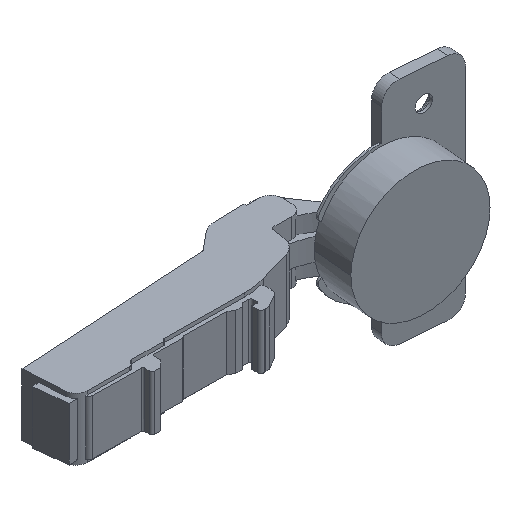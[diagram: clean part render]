
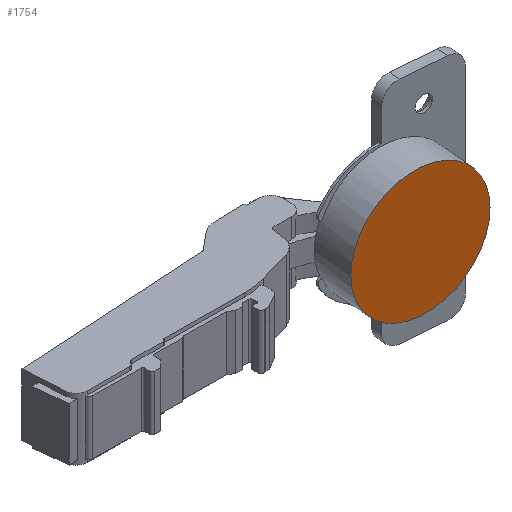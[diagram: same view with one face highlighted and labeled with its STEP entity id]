
A CAD part, isometric view. The second image highlights one B-rep face of the part: STEP entity #1754.
In plain terms, the highlighted planar face has unit normal (-0.084, -0.996, 0).
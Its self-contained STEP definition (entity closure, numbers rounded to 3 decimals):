
#464 = CARTESIAN_POINT ( 'NONE',  ( 43.464, 4.917, 2.278 ) ) ;
#478 = PLANE ( 'NONE',  #5919 ) ;
#494 = CARTESIAN_POINT ( 'NONE',  ( 58.421, 3.649, 17.288 ) ) ;
#521 = CARTESIAN_POINT ( 'NONE',  ( 76.274, 2.136, 7.711 ) ) ;
#555 = CARTESIAN_POINT ( 'NONE',  ( 65.186, 3.076, -16.843 ) ) ;
#575 = CARTESIAN_POINT ( 'NONE',  ( 45.644, 4.732, -8.72 ) ) ;
#1025 = VERTEX_POINT ( 'NONE', #5732 ) ;
#1052 = CARTESIAN_POINT ( 'NONE',  ( 44.238, 4.851, 5.607 ) ) ;
#1079 = CARTESIAN_POINT ( 'NONE',  ( 61.825, 3.361, 17.4 ) ) ;
#1105 = CARTESIAN_POINT ( 'NONE',  ( 77.474, 2.035, 4.512 ) ) ;
#1117 = CARTESIAN_POINT ( 'NONE',  ( 77.474, 2.035, -4.512 ) ) ;
#1144 = CARTESIAN_POINT ( 'NONE',  ( 61.825, 3.361, -17.4 ) ) ;
#1164 = CARTESIAN_POINT ( 'NONE',  ( 44.238, 4.851, -5.607 ) ) ;
#1403 = VERTEX_POINT ( 'NONE', #5952 ) ;
#1437 = CARTESIAN_POINT ( 'NONE',  ( 72.946, 2.418, -5.564 ) ) ;
#1517 = DIRECTION ( 'NONE',  ( 0.084, 0.996, 0. ) ) ;
#1592 = DIRECTION ( 'NONE',  ( 0., 0., -1. ) ) ;
#1651 = CARTESIAN_POINT ( 'NONE',  ( 45.644, 4.732, 8.72 ) ) ;
#1674 = CARTESIAN_POINT ( 'NONE',  ( 65.186, 3.076, 16.843 ) ) ;
#1702 = CARTESIAN_POINT ( 'NONE',  ( 78.028, 1.988, 1.139 ) ) ;
#1714 = CARTESIAN_POINT ( 'NONE',  ( 76.274, 2.136, -7.711 ) ) ;
#1738 = CARTESIAN_POINT ( 'NONE',  ( 58.421, 3.649, -17.288 ) ) ;
#1754 = ADVANCED_FACE ( 'NONE', ( #2948 ), #478, .F. ) ;
#1761 = CARTESIAN_POINT ( 'NONE',  ( 43.464, 4.917, -2.278 ) ) ;
#2241 = CARTESIAN_POINT ( 'NONE',  ( 47.628, 4.564, 11.498 ) ) ;
#2272 = CARTESIAN_POINT ( 'NONE',  ( 68.374, 2.806, 15.64 ) ) ;
#2308 = CARTESIAN_POINT ( 'NONE',  ( 74.476, 2.289, -10.614 ) ) ;
#2330 = CARTESIAN_POINT ( 'NONE',  ( 55.104, 3.93, -16.511 ) ) ;
#2343 = B_SPLINE_CURVE_WITH_KNOTS ( 'NONE', 3,
 ( #3368, #7402, #464, #4496, #1052, #5063, #1651, #5678, #2241, #6262, #2821, #6849, #3391, #7427, #3961, #494, #4519, #1079, #5092, #1674, #5701, #2272, #6291, #2846, #6877, #3417, #7448, #3985, #521, #4547, #1105, #5118, #1702, #5726 ),
 .UNSPECIFIED., .F., .F.,
 ( 4, 2, 2, 2, 2, 2, 2, 2, 2, 2, 2, 2, 2, 2, 2, 2, 4 ),
 ( 0., 0.063, 0.125, 0.188, 0.25, 0.313, 0.375, 0.438, 0.5, 0.563, 0.625, 0.688, 0.75, 0.813, 0.875, 0.938, 1. ),
 .UNSPECIFIED. ) ;
#2351 = CARTESIAN_POINT ( 'NONE',  ( 43.352, 4.926, 0. ) ) ;
#2821 = CARTESIAN_POINT ( 'NONE',  ( 50.114, 4.353, 13.835 ) ) ;
#2846 = CARTESIAN_POINT ( 'NONE',  ( 71.266, 2.561, 13.835 ) ) ;
#2887 = CARTESIAN_POINT ( 'NONE',  ( 72.148, 2.486, -13.109 ) ) ;
#2913 = CARTESIAN_POINT ( 'NONE',  ( 52.001, 4.193, -15.1 ) ) ;
#2948 = FACE_OUTER_BOUND ( 'NONE', #6141, .T. ) ;
#3104 = B_SPLINE_CURVE_WITH_KNOTS ( 'NONE', 3,
 ( #3995, #5713, #4562, #1117, #5134, #1714, #5738, #2308, #6327, #2887, #6913, #3456, #7485, #4015, #555, #4586, #1144, #5153, #1738, #5768, #2330, #6353, #2913, #6938, #3478, #7507, #4041, #575, #4610, #1164, #5180, #1761, #5792, #2351 ),
 .UNSPECIFIED., .F., .F.,
 ( 4, 2, 2, 2, 2, 2, 2, 2, 2, 2, 2, 2, 2, 2, 2, 2, 4 ),
 ( 0., 0.063, 0.125, 0.188, 0.25, 0.313, 0.375, 0.438, 0.5, 0.563, 0.625, 0.688, 0.75, 0.813, 0.875, 0.938, 1. ),
 .UNSPECIFIED. ) ;
#3368 = CARTESIAN_POINT ( 'NONE',  ( 43.352, 4.926, 0. ) ) ;
#3391 = CARTESIAN_POINT ( 'NONE',  ( 53.007, 4.108, 15.64 ) ) ;
#3417 = CARTESIAN_POINT ( 'NONE',  ( 73.752, 2.35, 11.498 ) ) ;
#3456 = CARTESIAN_POINT ( 'NONE',  ( 69.379, 2.721, -15.1 ) ) ;
#3478 = CARTESIAN_POINT ( 'NONE',  ( 49.233, 4.428, -13.109 ) ) ;
#3961 = CARTESIAN_POINT ( 'NONE',  ( 56.195, 3.838, 16.843 ) ) ;
#3985 = CARTESIAN_POINT ( 'NONE',  ( 75.737, 2.182, 8.72 ) ) ;
#3995 = CARTESIAN_POINT ( 'NONE',  ( 78.028, 1.988, 0. ) ) ;
#4015 = CARTESIAN_POINT ( 'NONE',  ( 66.277, 2.984, -16.511 ) ) ;
#4041 = CARTESIAN_POINT ( 'NONE',  ( 46.905, 4.625, -10.614 ) ) ;
#4141 = EDGE_CURVE ( 'NONE', #1025, #1403, #2343, .T. ) ;
#4496 = CARTESIAN_POINT ( 'NONE',  ( 43.907, 4.879, 4.512 ) ) ;
#4519 = CARTESIAN_POINT ( 'NONE',  ( 59.556, 3.553, 17.4 ) ) ;
#4524 = EDGE_CURVE ( 'NONE', #1403, #1025, #3104, .T. ) ;
#4547 = CARTESIAN_POINT ( 'NONE',  ( 77.143, 2.063, 5.607 ) ) ;
#4562 = CARTESIAN_POINT ( 'NONE',  ( 77.916, 1.997, -2.278 ) ) ;
#4586 = CARTESIAN_POINT ( 'NONE',  ( 62.96, 3.265, -17.288 ) ) ;
#4610 = CARTESIAN_POINT ( 'NONE',  ( 45.107, 4.778, -7.711 ) ) ;
#4948 = ORIENTED_EDGE ( 'NONE', *, *, #4524, .F. ) ;
#5063 = CARTESIAN_POINT ( 'NONE',  ( 45.107, 4.778, 7.711 ) ) ;
#5092 = CARTESIAN_POINT ( 'NONE',  ( 62.96, 3.265, 17.288 ) ) ;
#5118 = CARTESIAN_POINT ( 'NONE',  ( 77.916, 1.997, 2.278 ) ) ;
#5134 = CARTESIAN_POINT ( 'NONE',  ( 77.143, 2.063, -5.607 ) ) ;
#5153 = CARTESIAN_POINT ( 'NONE',  ( 59.556, 3.553, -17.4 ) ) ;
#5161 = ORIENTED_EDGE ( 'NONE', *, *, #4141, .F. ) ;
#5180 = CARTESIAN_POINT ( 'NONE',  ( 43.907, 4.879, -4.512 ) ) ;
#5678 = CARTESIAN_POINT ( 'NONE',  ( 46.905, 4.625, 10.614 ) ) ;
#5701 = CARTESIAN_POINT ( 'NONE',  ( 66.277, 2.984, 16.511 ) ) ;
#5713 = CARTESIAN_POINT ( 'NONE',  ( 78.028, 1.988, -1.139 ) ) ;
#5726 = CARTESIAN_POINT ( 'NONE',  ( 78.028, 1.988, 0. ) ) ;
#5732 = CARTESIAN_POINT ( 'NONE',  ( 43.352, 4.926, 0. ) ) ;
#5738 = CARTESIAN_POINT ( 'NONE',  ( 75.737, 2.182, -8.72 ) ) ;
#5768 = CARTESIAN_POINT ( 'NONE',  ( 56.195, 3.838, -16.843 ) ) ;
#5792 = CARTESIAN_POINT ( 'NONE',  ( 43.352, 4.926, -1.139 ) ) ;
#5919 = AXIS2_PLACEMENT_3D ( 'NONE', #1437, #1517, #1592 ) ;
#5952 = CARTESIAN_POINT ( 'NONE',  ( 78.028, 1.988, 0. ) ) ;
#6141 = EDGE_LOOP ( 'NONE', ( #4948, #5161 ) ) ;
#6262 = CARTESIAN_POINT ( 'NONE',  ( 49.233, 4.428, 13.109 ) ) ;
#6291 = CARTESIAN_POINT ( 'NONE',  ( 69.379, 2.721, 15.1 ) ) ;
#6327 = CARTESIAN_POINT ( 'NONE',  ( 73.752, 2.35, -11.498 ) ) ;
#6353 = CARTESIAN_POINT ( 'NONE',  ( 53.007, 4.108, -15.64 ) ) ;
#6849 = CARTESIAN_POINT ( 'NONE',  ( 52.001, 4.193, 15.1 ) ) ;
#6877 = CARTESIAN_POINT ( 'NONE',  ( 72.148, 2.486, 13.109 ) ) ;
#6913 = CARTESIAN_POINT ( 'NONE',  ( 71.266, 2.561, -13.835 ) ) ;
#6938 = CARTESIAN_POINT ( 'NONE',  ( 50.114, 4.353, -13.835 ) ) ;
#7402 = CARTESIAN_POINT ( 'NONE',  ( 43.352, 4.926, 1.139 ) ) ;
#7427 = CARTESIAN_POINT ( 'NONE',  ( 55.104, 3.93, 16.511 ) ) ;
#7448 = CARTESIAN_POINT ( 'NONE',  ( 74.476, 2.289, 10.614 ) ) ;
#7485 = CARTESIAN_POINT ( 'NONE',  ( 68.374, 2.806, -15.64 ) ) ;
#7507 = CARTESIAN_POINT ( 'NONE',  ( 47.628, 4.564, -11.498 ) ) ;
